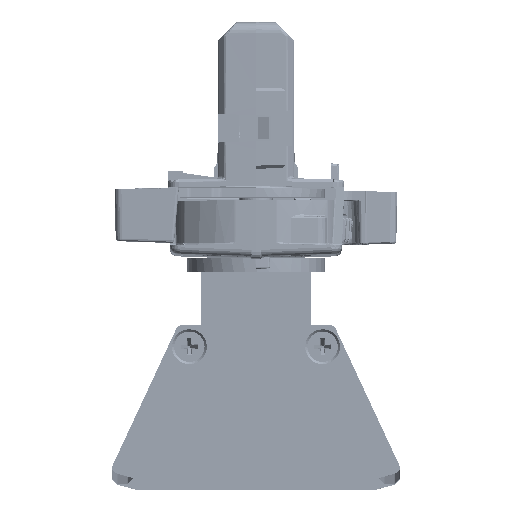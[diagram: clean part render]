
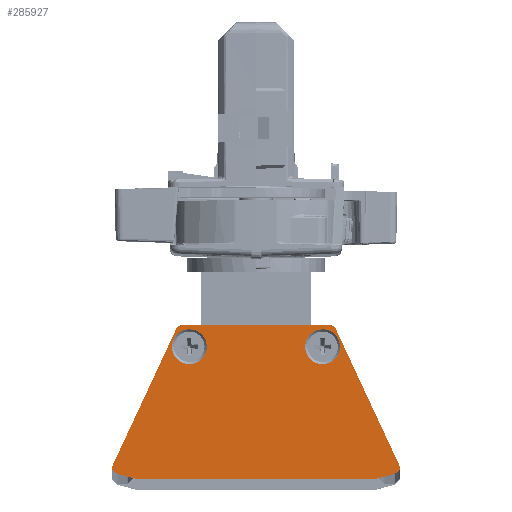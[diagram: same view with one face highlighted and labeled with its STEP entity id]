
A CAD part, top view. The second image highlights one B-rep face of the part: STEP entity #285927.
In plain terms, the highlighted planar face has unit normal (0, 0, 1).
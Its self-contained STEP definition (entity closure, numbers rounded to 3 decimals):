
#2268=FACE_BOUND('',#39774,.T.);
#2269=FACE_BOUND('',#39775,.T.);
#7100=CIRCLE('',#302384,0.35);
#7101=CIRCLE('',#302389,0.35);
#7102=CIRCLE('',#302392,0.35);
#7103=CIRCLE('',#302395,1.1);
#7104=CIRCLE('',#302397,1.1);
#7105=CIRCLE('',#302400,0.35);
#7106=CIRCLE('',#302403,3.15);
#7107=CIRCLE('',#302404,3.15);
#14356=PLANE('',#302402);
#25015=FACE_OUTER_BOUND('',#39773,.T.);
#39773=EDGE_LOOP('',(#211057,#211058,#211059,#211060,#211061,#211062,#211063,
#211064,#211065,#211066,#211067,#211068,#211069,#211070));
#39774=EDGE_LOOP('',(#211071));
#39775=EDGE_LOOP('',(#211072));
#60739=LINE('',#408286,#91400);
#66434=LINE('',#426396,#97095);
#66436=LINE('',#426400,#97097);
#66438=LINE('',#426404,#97099);
#66441=LINE('',#426412,#97102);
#66444=LINE('',#426420,#97105);
#66447=LINE('',#426430,#97108);
#66449=LINE('',#426436,#97110);
#91400=VECTOR('',#328864,1000.);
#97095=VECTOR('',#341087,1000.);
#97097=VECTOR('',#341091,1000.);
#97099=VECTOR('',#341095,1000.);
#97102=VECTOR('',#341104,1000.);
#97105=VECTOR('',#341113,1000.);
#97108=VECTOR('',#341126,1000.);
#97110=VECTOR('',#341134,1000.);
#120854=VERTEX_POINT('',#408283);
#120855=VERTEX_POINT('',#408285);
#125343=VERTEX_POINT('',#426388);
#125344=VERTEX_POINT('',#426390);
#125345=VERTEX_POINT('',#426394);
#125346=VERTEX_POINT('',#426398);
#125347=VERTEX_POINT('',#426402);
#125348=VERTEX_POINT('',#426406);
#125349=VERTEX_POINT('',#426410);
#125350=VERTEX_POINT('',#426414);
#125351=VERTEX_POINT('',#426418);
#125352=VERTEX_POINT('',#426424);
#125353=VERTEX_POINT('',#426428);
#125354=VERTEX_POINT('',#426432);
#125355=VERTEX_POINT('',#426438);
#125356=VERTEX_POINT('',#426440);
#149852=EDGE_CURVE('',#120854,#120855,#60739,.T.);
#156621=EDGE_CURVE('',#125343,#125344,#7100,.T.);
#156624=EDGE_CURVE('',#125345,#125343,#66434,.T.);
#156626=EDGE_CURVE('',#125345,#125346,#66436,.T.);
#156628=EDGE_CURVE('',#125346,#125347,#66438,.T.);
#156630=EDGE_CURVE('',#125347,#125348,#7101,.T.);
#156632=EDGE_CURVE('',#125348,#125349,#66441,.T.);
#156634=EDGE_CURVE('',#125349,#125350,#7102,.T.);
#156636=EDGE_CURVE('',#125350,#125351,#66444,.T.);
#156637=EDGE_CURVE('',#120855,#125351,#7103,.T.);
#156639=EDGE_CURVE('',#120854,#125352,#7104,.T.);
#156641=EDGE_CURVE('',#125353,#125352,#66447,.T.);
#156643=EDGE_CURVE('',#125354,#125353,#7105,.T.);
#156644=EDGE_CURVE('',#125344,#125354,#66449,.T.);
#156645=EDGE_CURVE('',#125355,#125355,#7106,.T.);
#156646=EDGE_CURVE('',#125356,#125356,#7107,.T.);
#211057=ORIENTED_EDGE('',*,*,#156621,.F.);
#211058=ORIENTED_EDGE('',*,*,#156624,.F.);
#211059=ORIENTED_EDGE('',*,*,#156626,.T.);
#211060=ORIENTED_EDGE('',*,*,#156628,.T.);
#211061=ORIENTED_EDGE('',*,*,#156630,.T.);
#211062=ORIENTED_EDGE('',*,*,#156632,.T.);
#211063=ORIENTED_EDGE('',*,*,#156634,.T.);
#211064=ORIENTED_EDGE('',*,*,#156636,.T.);
#211065=ORIENTED_EDGE('',*,*,#156637,.F.);
#211066=ORIENTED_EDGE('',*,*,#149852,.F.);
#211067=ORIENTED_EDGE('',*,*,#156639,.T.);
#211068=ORIENTED_EDGE('',*,*,#156641,.F.);
#211069=ORIENTED_EDGE('',*,*,#156643,.F.);
#211070=ORIENTED_EDGE('',*,*,#156644,.F.);
#211071=ORIENTED_EDGE('',*,*,#156645,.F.);
#211072=ORIENTED_EDGE('',*,*,#156646,.F.);
#285927=ADVANCED_FACE('',(#25015,#2268,#2269),#14356,.T.);
#302384=AXIS2_PLACEMENT_3D('',#426391,#341081,#341082);
#302389=AXIS2_PLACEMENT_3D('',#426408,#341099,#341100);
#302392=AXIS2_PLACEMENT_3D('',#426416,#341108,#341109);
#302395=AXIS2_PLACEMENT_3D('',#426422,#341116,#341117);
#302397=AXIS2_PLACEMENT_3D('',#426426,#341121,#341122);
#302400=AXIS2_PLACEMENT_3D('',#426434,#341130,#341131);
#302402=AXIS2_PLACEMENT_3D('',#426437,#341135,#341136);
#302403=AXIS2_PLACEMENT_3D('',#426439,#341137,#341138);
#302404=AXIS2_PLACEMENT_3D('',#426441,#341139,#341140);
#328864=DIRECTION('',(1.,0.,0.));
#341081=DIRECTION('center_axis',(0.,0.,-1.));
#341082=DIRECTION('ref_axis',(1.,0.,0.));
#341087=DIRECTION('',(-0.966,0.259,0.));
#341091=DIRECTION('',(1.,0.,0.));
#341095=DIRECTION('',(0.966,0.259,0.));
#341099=DIRECTION('center_axis',(0.,0.,1.));
#341100=DIRECTION('ref_axis',(1.,0.,0.));
#341104=DIRECTION('',(0.707,0.707,0.));
#341108=DIRECTION('center_axis',(0.,0.,1.));
#341109=DIRECTION('ref_axis',(1.,0.,0.));
#341113=DIRECTION('',(-0.423,0.906,0.));
#341116=DIRECTION('center_axis',(0.,0.,-1.));
#341117=DIRECTION('ref_axis',(1.,0.,0.));
#341121=DIRECTION('center_axis',(0.,0.,1.));
#341122=DIRECTION('ref_axis',(1.,0.,0.));
#341126=DIRECTION('',(0.423,0.906,0.));
#341130=DIRECTION('center_axis',(0.,0.,-1.));
#341131=DIRECTION('ref_axis',(1.,0.,0.));
#341134=DIRECTION('',(-0.707,0.707,0.));
#341135=DIRECTION('center_axis',(0.,0.,
1.));
#341136=DIRECTION('ref_axis',(1.,0.,0.));
#341137=DIRECTION('center_axis',(0.,0.,1.));
#341138=DIRECTION('ref_axis',(1.,0.,0.));
#341139=DIRECTION('center_axis',(0.,0.,1.));
#341140=DIRECTION('ref_axis',(1.,0.,0.));
#408283=CARTESIAN_POINT('',(-13.397,3.,565.));
#408285=CARTESIAN_POINT('',(13.397,3.,565.));
#408286=CARTESIAN_POINT('',(0.,3.,565.));
#426388=CARTESIAN_POINT('',(-25.108,-23.888,565.));
#426390=CARTESIAN_POINT('',(-25.265,-23.797,565.));
#426391=CARTESIAN_POINT('Origin',(-25.017,-23.55,565.));
#426394=CARTESIAN_POINT('',(-21.513,-24.851,565.));
#426396=CARTESIAN_POINT('',(-2.274,-30.006,565.));
#426398=CARTESIAN_POINT('',(21.513,-24.851,565.));
#426400=CARTESIAN_POINT('',(0.,-24.851,565.));
#426402=CARTESIAN_POINT('',(25.108,-23.888,565.));
#426404=CARTESIAN_POINT('',(2.274,-30.006,565.));
#426406=CARTESIAN_POINT('',(25.265,-23.797,565.));
#426408=CARTESIAN_POINT('Origin',(25.017,-23.55,565.));
#426410=CARTESIAN_POINT('',(25.997,-23.065,565.));
#426412=CARTESIAN_POINT('',(13.772,-35.291,565.));
#426414=CARTESIAN_POINT('',(26.067,-22.669,565.));
#426416=CARTESIAN_POINT('Origin',(25.75,-22.817,565.));
#426418=CARTESIAN_POINT('',(14.394,2.365,565.));
#426420=CARTESIAN_POINT('',(20.971,-11.74,565.));
#426422=CARTESIAN_POINT('Origin',(13.397,1.9,565.));
#426424=CARTESIAN_POINT('',(-14.394,2.365,565.));
#426426=CARTESIAN_POINT('Origin',(-13.397,1.9,565.));
#426428=CARTESIAN_POINT('',(-26.067,-22.669,565.));
#426430=CARTESIAN_POINT('',(-20.971,-11.74,565.));
#426432=CARTESIAN_POINT('',(-25.997,-23.065,565.));
#426434=CARTESIAN_POINT('Origin',(-25.75,-22.817,565.));
#426436=CARTESIAN_POINT('',(-13.772,-35.291,565.));
#426437=CARTESIAN_POINT('Origin',(0.,-21.519,565.));
#426438=CARTESIAN_POINT('',(8.9,-0.925,565.));
#426439=CARTESIAN_POINT('Origin',(12.05,-0.925,565.));
#426440=CARTESIAN_POINT('',(-15.2,-0.925,565.));
#426441=CARTESIAN_POINT('Origin',(-12.05,-0.925,
565.));
